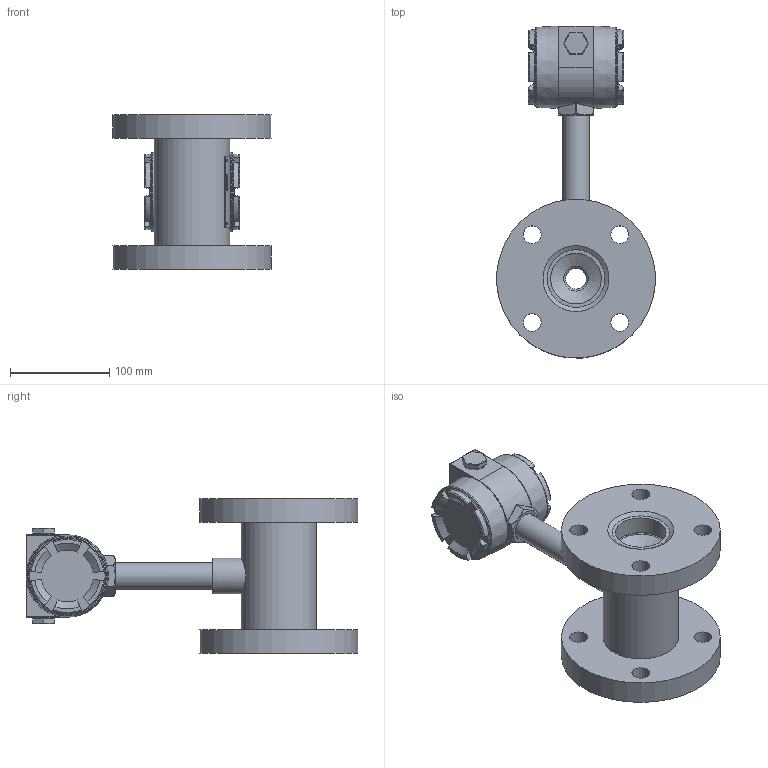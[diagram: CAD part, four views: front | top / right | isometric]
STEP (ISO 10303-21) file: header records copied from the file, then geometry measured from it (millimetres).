
FILE_DESCRIPTION(('STEP AP203'), '1');
FILE_NAME('ﾄﾐﾃ.ﾌ-160-80', '', ('UNSPECIFIED'), ('UNSPECIFIED'), 'ASCON STEP Converter 1.6', 'ASCON Math Kernel', '');
FILE_SCHEMA(('CONFIG_CONTROL_DESIGN'));
Length unit declared in the file: millimetre
Bounding box: 159.39 x 334.2 x 156 mm (x, y, z)
Volume: 1497600.3 mm3; surface area: 255385.2 mm2
Topology: 1 solids, 3 shells, 501 faces, 1238 edges, 781 vertices
Faces by surface type: plane 237, cylinder 163, cone 42, torus 31, bspline 24, sphere 4
Full cylindrical faces by diameter (mm): 1.9 x8, 2.4 x4, 4 x2, 9 x2, 12 x1, 17.7 x2, 18 x8, 18.43 x2, 20 x1, 21 x3, 24.9 x2, 25 x2, 27 x1, 30 x1, 33 x1, 36 x2, 51 x2, 56 x2, 63.8 x1, 68 x2, 69.5 x2, 72 x4, 76 x3, 160 x2
Entity records: 22994 total; most frequent: CARTESIAN_POINT 8219, ORIENTED_EDGE 2234, DIRECTION 2050, EDGE_CURVE 1117, AXIS2_PLACEMENT_3D 822, VERTEX_POINT 777, EDGE_LOOP 684, FACE_BOUND 503
